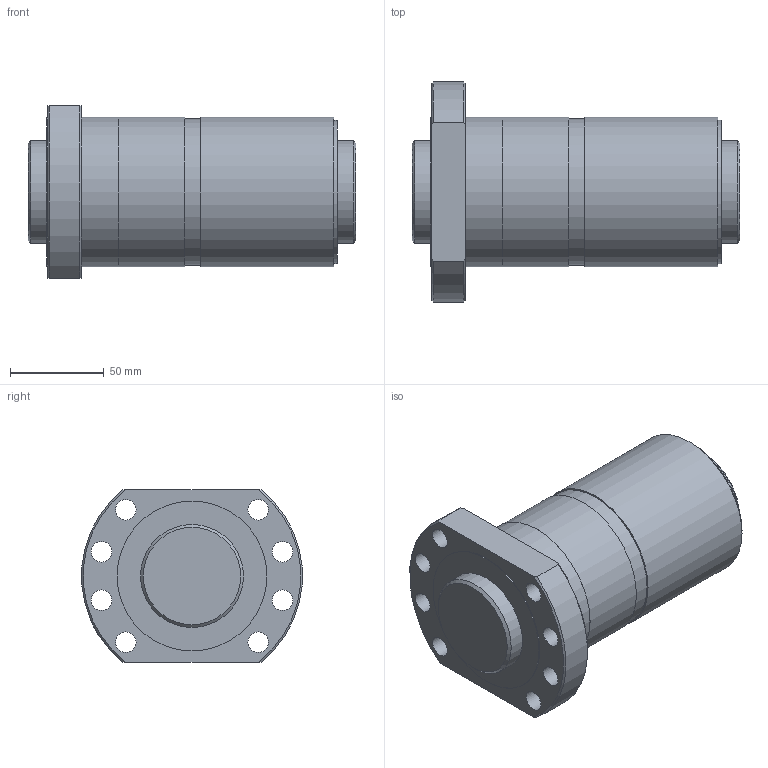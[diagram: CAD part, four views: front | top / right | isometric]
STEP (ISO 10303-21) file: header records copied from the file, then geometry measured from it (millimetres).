
FILE_DESCRIPTION(/* description */ ('STEP AP203'),/* implementation_level */ '2;1');
FILE_NAME(/* name */ 'SDAN5516VX-4G0+175LC0(0G000)',/* time_stamp */ '2024-07-04T10:22:02+02:00',/* author */ ('License CC BY-ND 4.0'),/* organization */ ('CADENAS'),/* preprocessor_version */ 'ST-DEVELOPER v19.3',/* originating_system */ 'PARTsolutions',/* authorisation */ ' ');
FILE_SCHEMA (('CONFIG_CONTROL_DESIGN'));
Length unit declared in the file: millimetre
Products named in the file (3): SDAN5516VX-4G0+175LC0(0G000); 0SDAN5516VX-40Shaft; SDAN5516VX-4_nut
Assembly tree (2 placements, depth 2):
  SDAN5516VX-4G0+175LC0(0G000)
    0SDAN5516VX-40Shaft
    SDAN5516VX-4_nut
Bounding box: 175 x 117.61 x 92 mm (x, y, z)
Volume: 891470.1 mm3; surface area: 121521.5 mm2
Topology: 2 solids, 2 shells, 41 faces, 95 edges, 65 vertices
Faces by surface type: cylinder 21, plane 13, cone 7
Full cylindrical faces by diameter (mm): 5.2 x1, 6.917 x1, 11 x8, 55 x2, 76.4 x1, 78 x1, 78.4 x1, 80 x4
Entity records: 1143 total; most frequent: CARTESIAN_POINT 208, DIRECTION 188, ORIENTED_EDGE 128, EDGE_LOOP 90, FACE_BOUND 90, AXIS2_PLACEMENT_3D 90, EDGE_CURVE 64, VERTEX_POINT 56
